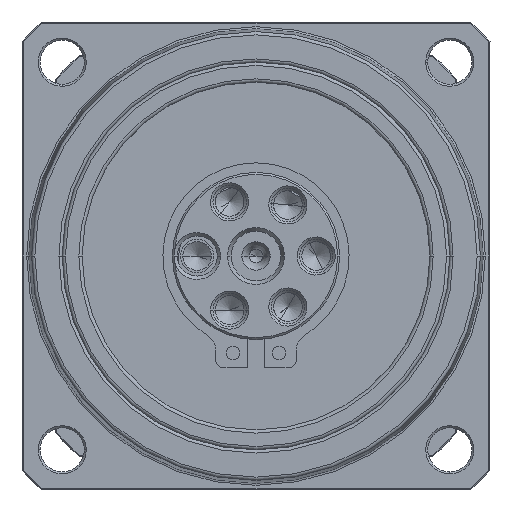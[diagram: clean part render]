
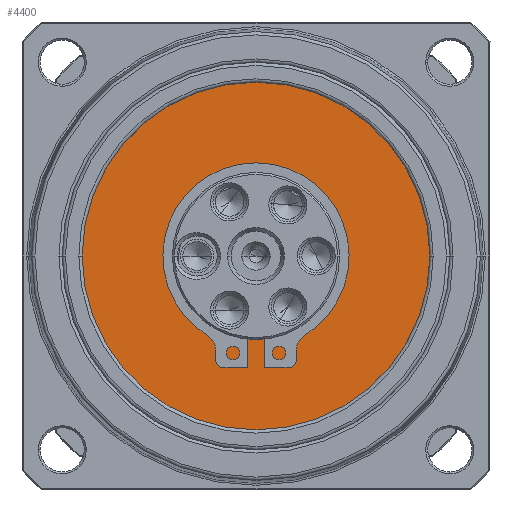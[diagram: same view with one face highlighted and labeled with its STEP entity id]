
A CAD part, left-side view. The second image highlights one B-rep face of the part: STEP entity #4400.
In plain terms, the highlighted planar face has unit normal (-1, 0, 0).
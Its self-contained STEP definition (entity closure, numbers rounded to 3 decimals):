
#3443=CARTESIAN_POINT('',(-32.,0.,0.));
#3444=DIRECTION('',(1.,0.,0.));
#3445=DIRECTION('',(0.,1.,0.));
#3446=AXIS2_PLACEMENT_3D('',#3443,#3444,#3445);
#3452=CARTESIAN_POINT('',(-32.,0.,0.));
#3453=DIRECTION('',(-1.,0.,0.));
#3454=DIRECTION('',(0.,1.,0.));
#3455=AXIS2_PLACEMENT_3D('',#3452,#3453,#3454);
#3471=CARTESIAN_POINT('',(-32.,0.,0.));
#3472=DIRECTION('',(-1.,0.,0.));
#3473=DIRECTION('',(0.,1.,0.));
#3474=AXIS2_PLACEMENT_3D('',#3471,#3472,#3473);
#3476=CARTESIAN_POINT('',(-32.,0.,0.));
#3477=DIRECTION('',(1.,0.,0.));
#3478=DIRECTION('',(0.,1.,0.));
#3479=AXIS2_PLACEMENT_3D('',#3476,#3477,#3478);
#3864=CARTESIAN_POINT('',(-32.,26.,0.));
#3866=VERTEX_POINT('',#3864);
#3868=CARTESIAN_POINT('',(-32.,-26.,0.));
#3870=VERTEX_POINT('',#3868);
#3871=CARTESIAN_POINT('',(-32.,12.5,0.));
#3872=CARTESIAN_POINT('',(-32.,-12.5,0.));
#3873=VERTEX_POINT('',#3871);
#3874=VERTEX_POINT('',#3872);
#4385=CARTESIAN_POINT('',(-32.,0.,0.));
#4386=DIRECTION('',(1.,0.,0.));
#4387=DIRECTION('',(0.,-1.,0.));
#4388=AXIS2_PLACEMENT_3D('',#4385,#4386,#4387);
#4389=PLANE('',#4388);
#4391=ORIENTED_EDGE('',*,*,#4390,.F.);
#4393=ORIENTED_EDGE('',*,*,#4392,.T.);
#4394=EDGE_LOOP('',(#4391,#4393));
#4395=FACE_OUTER_BOUND('',#4394,.F.);
#4396=ORIENTED_EDGE('',*,*,#4352,.F.);
#4397=ORIENTED_EDGE('',*,*,#4367,.T.);
#4398=EDGE_LOOP('',(#4396,#4397));
#4399=FACE_BOUND('',#4398,.F.);
#4400=ADVANCED_FACE('',(#4395,#4399),#4389,.F.);
#3447=CIRCLE('',#3446,12.5);
#3456=CIRCLE('',#3455,12.5);
#3475=CIRCLE('',#3474,26.);
#3480=CIRCLE('',#3479,26.);
#4352=EDGE_CURVE('',#3873,#3874,#3447,.T.);
#4367=EDGE_CURVE('',#3873,#3874,#3456,.T.);
#4390=EDGE_CURVE('',#3866,#3870,#3475,.T.);
#4392=EDGE_CURVE('',#3866,#3870,#3480,.T.);
